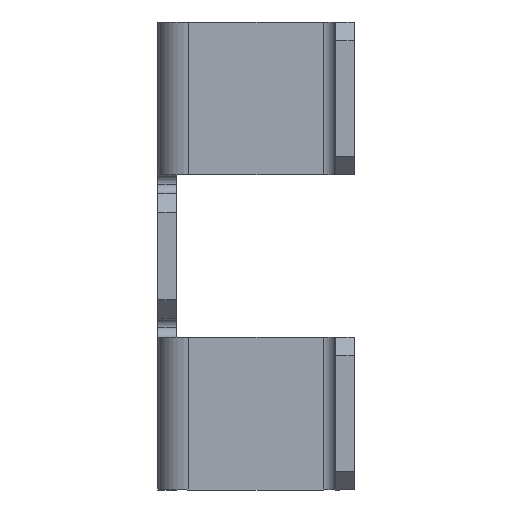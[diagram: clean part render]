
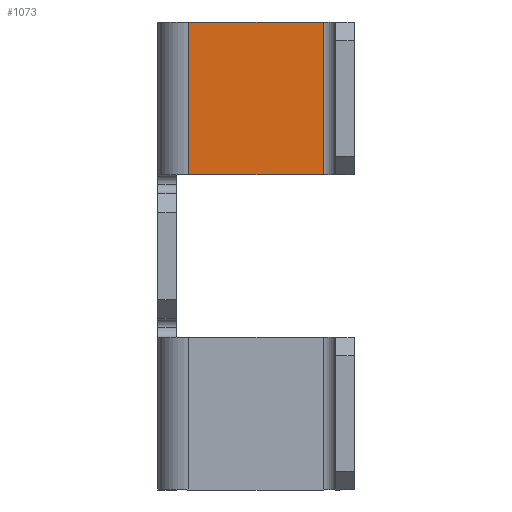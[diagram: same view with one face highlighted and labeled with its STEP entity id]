
A CAD part, front view. The second image highlights one B-rep face of the part: STEP entity #1073.
In plain terms, the highlighted planar face has unit normal (0, -1, 0).
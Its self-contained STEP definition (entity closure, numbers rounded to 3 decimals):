
#23 = DIRECTION ( 'NONE',  ( 0., 1., 0. ) ) ;
#32 = CARTESIAN_POINT ( 'NONE',  ( 0., -3., 37.5 ) ) ;
#47 = PLANE ( 'NONE',  #693 ) ;
#52 = DIRECTION ( 'NONE',  ( 0., 0., 1. ) ) ;
#56 = FACE_OUTER_BOUND ( 'NONE', #469, .T. ) ;
#327 = VECTOR ( 'NONE', #1707, 1000. ) ;
#331 = VECTOR ( 'NONE', #1371, 1000. ) ;
#377 = VERTEX_POINT ( 'NONE', #1524 ) ;
#434 = VERTEX_POINT ( 'NONE', #1590 ) ;
#444 = VERTEX_POINT ( 'NONE', #1542 ) ;
#469 = EDGE_LOOP ( 'NONE', ( #1694, #1442, #1341, #1713 ) ) ;
#502 = VERTEX_POINT ( 'NONE', #1471 ) ;
#682 = VECTOR ( 'NONE', #1013, 1000. ) ;
#693 = AXIS2_PLACEMENT_3D ( 'NONE', #32, #23, #52 ) ;
#705 = VECTOR ( 'NONE', #1031, 1000. ) ;
#804 = EDGE_CURVE ( 'NONE', #434, #377, #1287, .T. ) ;
#807 = EDGE_CURVE ( 'NONE', #444, #434, #1292, .T. ) ;
#996 = LINE ( 'NONE', #1014, #682 ) ;
#1013 = DIRECTION ( 'NONE',  ( 0., 0., -1. ) ) ;
#1014 = CARTESIAN_POINT ( 'NONE',  ( 23.5, -3., 37.5 ) ) ;
#1027 = CARTESIAN_POINT ( 'NONE',  ( 0., -3., 37.5 ) ) ;
#1029 = LINE ( 'NONE', #1027, #705 ) ;
#1031 = DIRECTION ( 'NONE',  ( 1., 0., 0. ) ) ;
#1073 = ADVANCED_FACE ( 'NONE', ( #56 ), #47, .F. ) ;
#1287 = LINE ( 'NONE', #1394, #331 ) ;
#1292 = LINE ( 'NONE', #1702, #327 ) ;
#1341 = ORIENTED_EDGE ( 'NONE', *, *, #1718, .F. ) ;
#1371 = DIRECTION ( 'NONE',  ( 1., 0., 0. ) ) ;
#1394 = CARTESIAN_POINT ( 'NONE',  ( -3.852, -3., 13. ) ) ;
#1442 = ORIENTED_EDGE ( 'NONE', *, *, #1722, .F. ) ;
#1471 = CARTESIAN_POINT ( 'NONE',  ( 23.5, -3., 37.5 ) ) ;
#1524 = CARTESIAN_POINT ( 'NONE',  ( 23.5, -3., 13. ) ) ;
#1542 = CARTESIAN_POINT ( 'NONE',  ( 2., -3., 37.5 ) ) ;
#1590 = CARTESIAN_POINT ( 'NONE',  ( 2., -3., 13. ) ) ;
#1694 = ORIENTED_EDGE ( 'NONE', *, *, #804, .T. ) ;
#1702 = CARTESIAN_POINT ( 'NONE',  ( 2., -3., 37.5 ) ) ;
#1707 = DIRECTION ( 'NONE',  ( 0., 0., -1. ) ) ;
#1713 = ORIENTED_EDGE ( 'NONE', *, *, #807, .T. ) ;
#1718 = EDGE_CURVE ( 'NONE', #444, #502, #1029, .T. ) ;
#1722 = EDGE_CURVE ( 'NONE', #502, #377, #996, .T. ) ;
